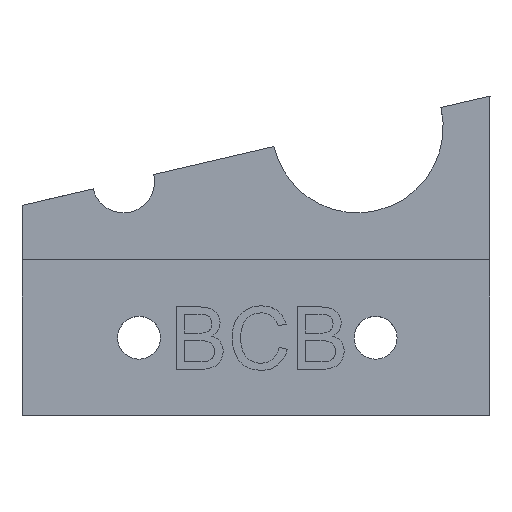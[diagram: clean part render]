
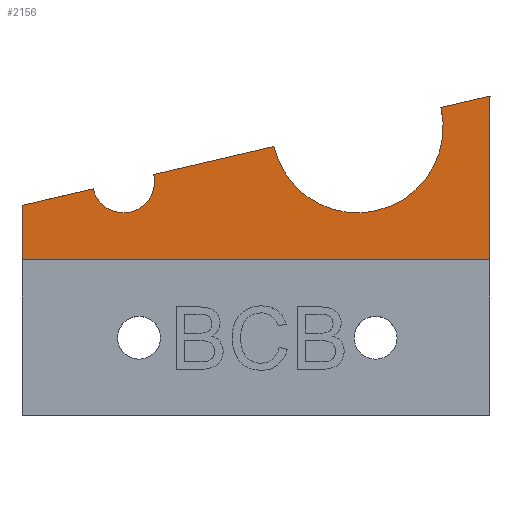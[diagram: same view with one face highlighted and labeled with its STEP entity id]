
A CAD part, top view. The second image highlights one B-rep face of the part: STEP entity #2156.
In plain terms, the highlighted planar face has unit normal (0, 0, 1) as drawn and (0, -1, 0) by its records, which use the part's own axes.
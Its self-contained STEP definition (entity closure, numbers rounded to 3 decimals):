
#44=CIRCLE('',#2237,11.);
#45=CIRCLE('',#2238,4.);
#367=FACE_OUTER_BOUND('',#494,.T.);
#494=EDGE_LOOP('',(#1944,#1945,#1946,#1947,#1948,#1949,#1950,#1951));
#649=LINE('',#4281,#814);
#658=LINE('',#4330,#823);
#659=LINE('',#4332,#824);
#660=LINE('',#4334,#825);
#661=LINE('',#4336,#826);
#662=LINE('',#4338,#827);
#814=VECTOR('',#2456,10.);
#823=VECTOR('',#2513,10.);
#824=VECTOR('',#2514,10.);
#825=VECTOR('',#2515,10.);
#826=VECTOR('',#2516,10.);
#827=VECTOR('',#2517,10.);
#1026=VERTEX_POINT('',#4274);
#1029=VERTEX_POINT('',#4279);
#1044=VERTEX_POINT('',#4328);
#1045=VERTEX_POINT('',#4329);
#1046=VERTEX_POINT('',#4331);
#1047=VERTEX_POINT('',#4333);
#1048=VERTEX_POINT('',#4335);
#1049=VERTEX_POINT('',#4337);
#1329=EDGE_CURVE('',#1029,#1026,#649,.T.);
#1354=EDGE_CURVE('',#1044,#1045,#658,.T.);
#1355=EDGE_CURVE('',#1046,#1044,#659,.T.);
#1356=EDGE_CURVE('',#1047,#1046,#660,.T.);
#1357=EDGE_CURVE('',#1048,#1047,#661,.T.);
#1358=EDGE_CURVE('',#1049,#1048,#662,.T.);
#1359=EDGE_CURVE('',#1026,#1049,#44,.T.);
#1360=EDGE_CURVE('',#1045,#1029,#45,.T.);
#1944=ORIENTED_EDGE('',*,*,#1354,.F.);
#1945=ORIENTED_EDGE('',*,*,#1355,.F.);
#1946=ORIENTED_EDGE('',*,*,#1356,.F.);
#1947=ORIENTED_EDGE('',*,*,#1357,.F.);
#1948=ORIENTED_EDGE('',*,*,#1358,.F.);
#1949=ORIENTED_EDGE('',*,*,#1359,.F.);
#1950=ORIENTED_EDGE('',*,*,#1329,.F.);
#1951=ORIENTED_EDGE('',*,*,#1360,.F.);
#2045=PLANE('',#2236);
#2156=ADVANCED_FACE('',(#367),#2045,.T.);
#2236=AXIS2_PLACEMENT_3D('',#4327,#2511,#2512);
#2237=AXIS2_PLACEMENT_3D('',#4339,#2518,#2519);
#2238=AXIS2_PLACEMENT_3D('',#4340,#2520,#2521);
#2456=DIRECTION('',(0.974,0.,0.227));
#2511=DIRECTION('center_axis',(0.,-1.,0.));
#2512=DIRECTION('ref_axis',(0.,0.,
-1.));
#2513=DIRECTION('',(0.974,0.,0.227));
#2514=DIRECTION('',(0.,0.,1.));
#2515=DIRECTION('',(-1.,0.,0.));
#2516=DIRECTION('',(0.,0.,-1.));
#2517=DIRECTION('',(0.974,0.,0.227));
#2518=DIRECTION('center_axis',(0.,-1.,0.));
#2519=DIRECTION('ref_axis',(0.,0.,-1.));
#2520=DIRECTION('center_axis',(0.,-1.,0.));
#2521=DIRECTION('ref_axis',(0.,0.,-1.));
#4274=CARTESIAN_POINT('',(-170.614,14.518,-295.347));
#4279=CARTESIAN_POINT('',(-186.007,14.518,-298.939));
#4281=CARTESIAN_POINT('',(-175.705,14.518,-296.535));
#4327=CARTESIAN_POINT('Origin',(-162.902,14.518,-304.848));
#4328=CARTESIAN_POINT('',(-202.902,14.518,-302.881));
#4329=CARTESIAN_POINT('',(-193.797,14.518,-300.757));
#4330=CARTESIAN_POINT('',(-184.152,14.518,-298.506));
#4331=CARTESIAN_POINT('',(-202.902,14.518,-309.848));
#4332=CARTESIAN_POINT('',(-202.902,14.518,-317.348));
#4333=CARTESIAN_POINT('',(-142.902,14.518,-309.848));
#4334=CARTESIAN_POINT('',(-152.902,14.518,-309.848));
#4335=CARTESIAN_POINT('',(-142.902,14.518,-288.881));
#4336=CARTESIAN_POINT('',(-142.902,14.518,-307.348));
#4337=CARTESIAN_POINT('',(-149.19,14.518,-290.348));
#4338=CARTESIAN_POINT('',(-154.152,14.518,-291.506));
#4339=CARTESIAN_POINT('Origin',(-159.902,14.518,-292.848));
#4340=CARTESIAN_POINT('Origin',(-189.902,14.518,-299.848));
